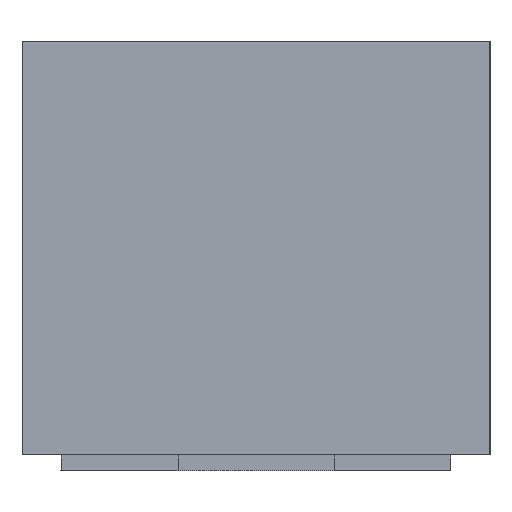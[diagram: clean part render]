
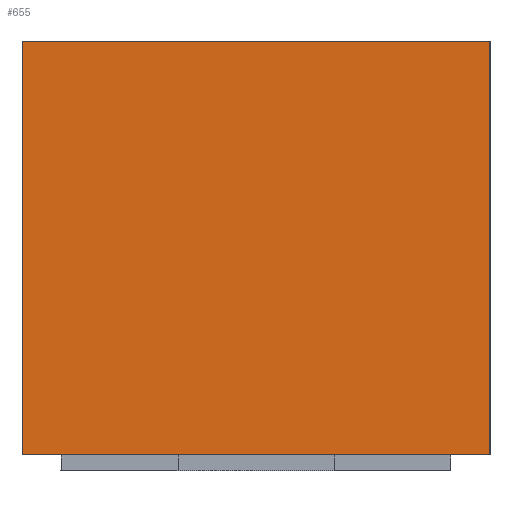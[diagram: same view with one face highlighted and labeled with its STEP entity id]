
A CAD part, left-side view. The second image highlights one B-rep face of the part: STEP entity #655.
In plain terms, the highlighted planar face has unit normal (-1, 0, 0).
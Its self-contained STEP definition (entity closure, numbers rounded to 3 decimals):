
#594 = CARTESIAN_POINT ( 'NONE',  ( -0.5, 0.3, 0.02 ) ) ;
#595 = VERTEX_POINT ( 'NONE', #594 ) ;
#602 = CARTESIAN_POINT ( 'NONE',  ( -0.5, 0.3, 0.55 ) ) ;
#603 = VERTEX_POINT ( 'NONE', #602 ) ;
#604 = CARTESIAN_POINT ( 'NONE',  ( -0.5, 0.3, 0.55 ) ) ;
#605 = DIRECTION ( 'NONE',  ( 0., 0., -1. ) ) ;
#606 = VECTOR ( 'NONE', #605, 1000. ) ;
#607 = LINE ( 'NONE', #604, #606 ) ;
#608 = EDGE_CURVE ( 'NONE', #603, #595, #607, .T. ) ;
#625 = CARTESIAN_POINT ( 'NONE',  ( -0.5, -0.3, 0.02 ) ) ;
#626 = VERTEX_POINT ( 'NONE', #625 ) ;
#627 = CARTESIAN_POINT ( 'NONE',  ( -0.5, -0.3, 0.02 ) ) ;
#628 = DIRECTION ( 'NONE',  ( 0., -1., 0. ) ) ;
#629 = VECTOR ( 'NONE', #628, 1000. ) ;
#630 = LINE ( 'NONE', #627, #629 ) ;
#631 = EDGE_CURVE ( 'NONE', #595, #626, #630, .T. ) ;
#632 = ORIENTED_EDGE ( 'NONE', *, *, #631, .T. ) ;
#633 = CARTESIAN_POINT ( 'NONE',  ( -0.5, -0.3, 0.55 ) ) ;
#634 = VERTEX_POINT ( 'NONE', #633 ) ;
#635 = CARTESIAN_POINT ( 'NONE',  ( -0.5, -0.3, 0.55 ) ) ;
#636 = DIRECTION ( 'NONE',  ( 0., 0., -1. ) ) ;
#637 = VECTOR ( 'NONE', #636, 1000. ) ;
#638 = LINE ( 'NONE', #635, #637 ) ;
#639 = EDGE_CURVE ( 'NONE', #634, #626, #638, .T. ) ;
#640 = ORIENTED_EDGE ( 'NONE', *, *, #639, .F. ) ;
#641 = CARTESIAN_POINT ( 'NONE',  ( -0.5, -0.3, 0.55 ) ) ;
#642 = DIRECTION ( 'NONE',  ( 0., -1., 0. ) ) ;
#643 = VECTOR ( 'NONE', #642, 1000. ) ;
#644 = LINE ( 'NONE', #641, #643 ) ;
#645 = EDGE_CURVE ( 'NONE', #603, #634, #644, .T. ) ;
#646 = ORIENTED_EDGE ( 'NONE', *, *, #645, .F. ) ;
#647 = ORIENTED_EDGE ( 'NONE', *, *, #608, .T. ) ;
#648 = EDGE_LOOP ( 'NONE', ( #632, #640, #646, #647 ) ) ;
#649 = FACE_OUTER_BOUND ( 'NONE', #648, .T. ) ;
#650 = CARTESIAN_POINT ( 'NONE',  ( -0.5, -0.3, 0.55 ) ) ;
#651 = DIRECTION ( 'NONE',  ( 1., 0., 0. ) ) ;
#652 = DIRECTION ( 'NONE',  ( 0., 1., 0. ) ) ;
#653 = AXIS2_PLACEMENT_3D ( 'NONE', #650, #651, #652 ) ;
#654 = PLANE ( 'NONE', #653 ) ;
#655 = ADVANCED_FACE ( 'NONE', ( #649 ), #654, .F. ) ;
